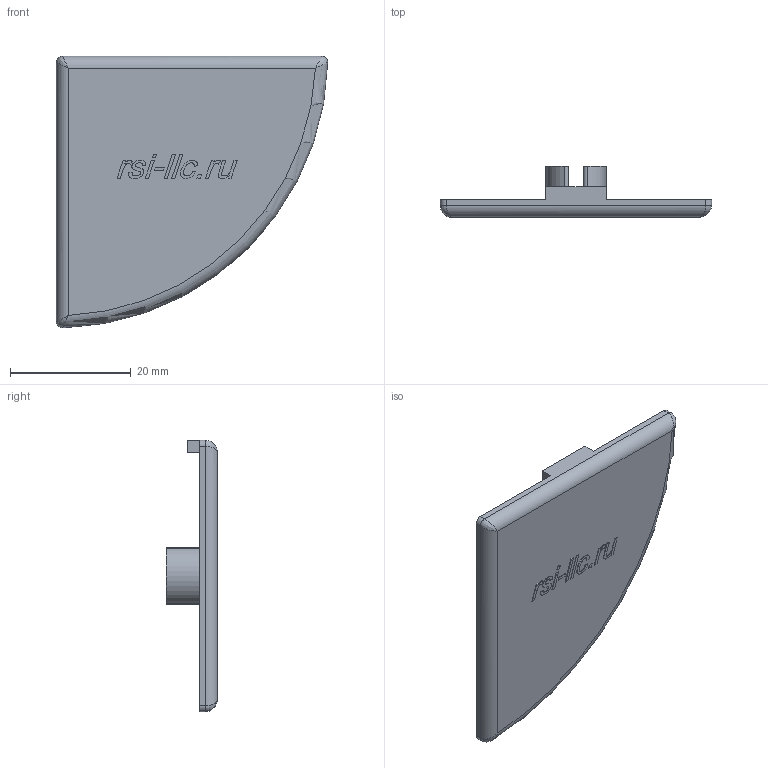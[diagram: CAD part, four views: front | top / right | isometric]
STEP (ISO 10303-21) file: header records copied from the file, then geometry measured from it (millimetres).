
FILE_DESCRIPTION (( 'STEP AP214' ), '1' );
FILE_NAME ('4014.STEP', '2020-10-21T11:40:27', ( '' ), ( '' ), 'SwSTEP 2.0', 'SolidWorks 2018', '' );
FILE_SCHEMA (( 'AUTOMOTIVE_DESIGN' ));
Length unit declared in the file: millimetre
Products named in the file (1): 4014
Bounding box: 45 x 8.6 x 45 mm (x, y, z)
Volume: 2946.9 mm3; surface area: 4090.1 mm2
Topology: 1 solids, 1 shells, 148 faces, 379 edges, 243 vertices
Faces by surface type: plane 74, bspline 35, cylinder 23, torus 16
Entity records: 7409 total; most frequent: CARTESIAN_POINT 2949, ORIENTED_EDGE 752, DIRECTION 608, EDGE_CURVE 376, VERTEX_POINT 243, VECTOR 232, LINE 232, AXIS2_PLACEMENT_3D 188
